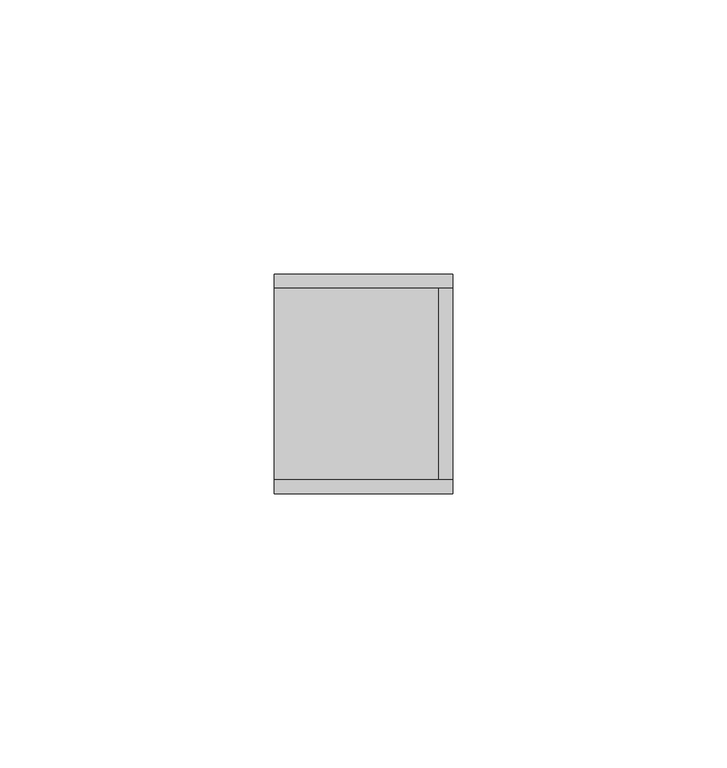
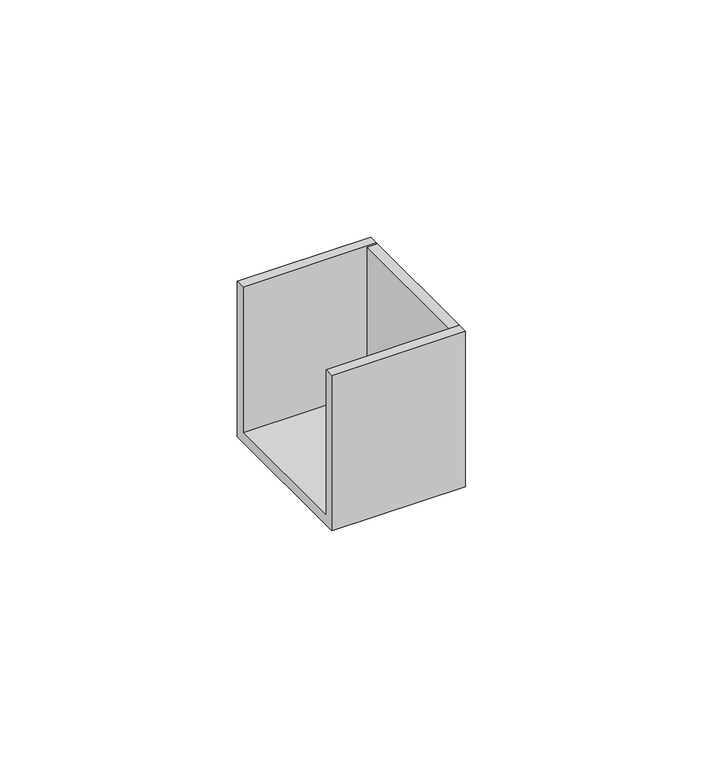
"""IFC4 building model written with IfcOpenShell, lengths in millimetres: cable carrier fitting geometry, КНС_ЗаглушкаТорцеваяLAN_ILC_DKC : Заглушка торцевая LAN_DKC."""

from ifc_helpers import new_model, si_unit, frame, origin, place, context, project, spatial, polyline, outline, extrude, source, transform, mapped, element, save


def cable_carrier_fitting_3a91f6ff(model_context):
    return source(origin(), model_context, "Body", "SweptSolid", [
        extrude(outline(polyline([(20.0, -20.0), (-20.0, -20.0), (-20.0, 20.0), (-17.5, 20.0), (-17.5, -17.5), (17.5, -17.5), (17.5, 20.0), (20.0, 20.0), (20.0, -20.0)])), frame((-32.5, 0.0, 0.0), z_axis=(1.0, 0.0, 0.0), x_axis=(0.0, 1.0, 0.0)), (0.0, 0.0, 1.0), 32.5),
        extrude(outline(polyline([(0.0, 17.5), (0.0, -17.5), (-2.5, -17.5), (-2.5, 17.5), (0.0, 17.5)])), frame((0.0, 0.0, -20.0), z_axis=(0.0, 0.0, 1.0), x_axis=(1.0, 0.0, 0.0)), (0.0, 0.0, 1.0), 40.0),
    ])


if __name__ == "__main__":
    model = new_model("IFC4")
    model_context = context("Model", 3, world=origin())
    ifc_project = project(units=[si_unit("LENGTHUNIT", "METRE", prefix="MILLI")], contexts=[model_context])
    site = spatial("IfcSite", under=ifc_project)
    building = spatial("IfcBuilding", under=site)
    placement = place(None, origin())
    cable_carrier_fitting_shape = cable_carrier_fitting_3a91f6ff(model_context)
    element("IfcCableCarrierFitting", 1, ObjectType="КНС_ЗаглушкаТорцеваяLAN_ILC_DKC : Заглушка торцевая LAN_DKC", at=placement, inside=building, context=model_context, shape_type="MappedRepresentation", body=[
        mapped(cable_carrier_fitting_shape, transform((0.0, 0.0, 0.0), x_axis=(1.0, 0.0, 0.0), y_axis=(0.0, 1.0, 0.0), z_axis=(0.0, 0.0, 1.0))),
    ])
    save(model, "model.ifc")
